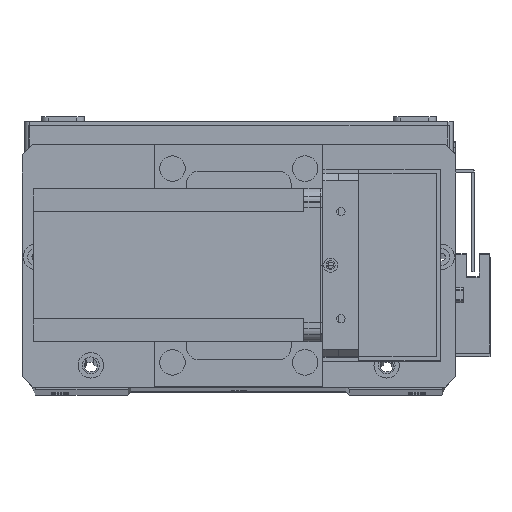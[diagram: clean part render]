
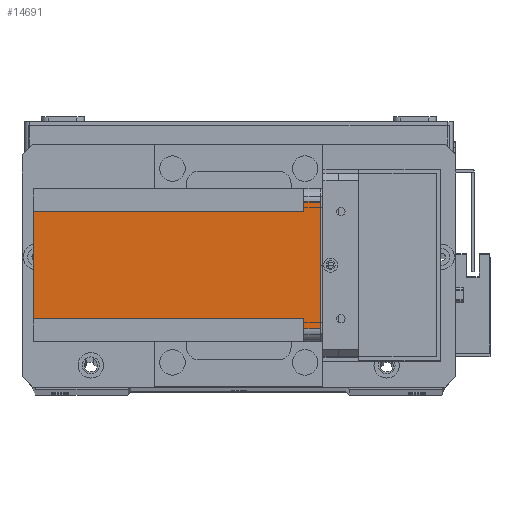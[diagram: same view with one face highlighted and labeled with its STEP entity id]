
A CAD part, top view. The second image highlights one B-rep face of the part: STEP entity #14691.
In plain terms, the highlighted planar face has unit normal (0, 0, 1) as drawn and (-1, 0, 0) by its records, which use the part's own axes.
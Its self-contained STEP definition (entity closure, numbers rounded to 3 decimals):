
#323 = LINE ( 'NONE', #25324, #6056 ) ;
#1512 = LINE ( 'NONE', #2048, #7254 ) ;
#1795 = DIRECTION ( 'NONE',  ( 0., 0., -1. ) ) ;
#2048 = CARTESIAN_POINT ( 'NONE',  ( 0., 0., 0. ) ) ;
#2240 = VECTOR ( 'NONE', #1795, 1000. ) ;
#3369 = DIRECTION ( 'NONE',  ( 0., 1., 0. ) ) ;
#3471 = CARTESIAN_POINT ( 'NONE',  ( 0., 5., -6.5 ) ) ;
#3875 = VERTEX_POINT ( 'NONE', #29984 ) ;
#6056 = VECTOR ( 'NONE', #10600, 1000. ) ;
#6598 = CARTESIAN_POINT ( 'NONE',  ( 0., 0., -112.5 ) ) ;
#6752 = VERTEX_POINT ( 'NONE', #17697 ) ;
#7254 = VECTOR ( 'NONE', #19146, 1000. ) ;
#7533 = CARTESIAN_POINT ( 'NONE',  ( 0., 51., -6.5 ) ) ;
#7601 = DIRECTION ( 'NONE',  ( 0., 1., 0. ) ) ;
#7842 = ORIENTED_EDGE ( 'NONE', *, *, #25323, .T. ) ;
#8041 = DIRECTION ( 'NONE',  ( 0., 0., 1. ) ) ;
#8262 = ORIENTED_EDGE ( 'NONE', *, *, #25064, .F. ) ;
#8616 = ORIENTED_EDGE ( 'NONE', *, *, #25376, .T. ) ;
#9186 = VECTOR ( 'NONE', #7601, 1000. ) ;
#9548 = LINE ( 'NONE', #6598, #16023 ) ;
#10039 = FACE_OUTER_BOUND ( 'NONE', #10304, .T. ) ;
#10304 = EDGE_LOOP ( 'NONE', ( #18611, #7842, #8262, #8616, #13116, #14747, #15364, #18239 ) ) ;
#10488 = VERTEX_POINT ( 'NONE', #7533 ) ;
#10600 = DIRECTION ( 'NONE',  ( 0., 0., -1. ) ) ;
#11260 = CARTESIAN_POINT ( 'NONE',  ( 0., 60., -6.5 ) ) ;
#11857 = LINE ( 'NONE', #13819, #28935 ) ;
#12528 = CARTESIAN_POINT ( 'NONE',  ( 0., 0., -6.5 ) ) ;
#13116 = ORIENTED_EDGE ( 'NONE', *, *, #25468, .F. ) ;
#13390 = LINE ( 'NONE', #27455, #25676 ) ;
#13819 = CARTESIAN_POINT ( 'NONE',  ( 0., 51., -112.5 ) ) ;
#14535 = VERTEX_POINT ( 'NONE', #26614 ) ;
#14691 = ADVANCED_FACE ( 'NONE', ( #10039 ), #17837, .T. ) ;
#14747 = ORIENTED_EDGE ( 'NONE', *, *, #25551, .F. ) ;
#15364 = ORIENTED_EDGE ( 'NONE', *, *, #25558, .T. ) ;
#16023 = VECTOR ( 'NONE', #23863, 1000. ) ;
#16426 = LINE ( 'NONE', #12528, #9186 ) ;
#16453 = CARTESIAN_POINT ( 'NONE',  ( 0., 9., -112.5 ) ) ;
#16492 = DIRECTION ( 'NONE',  ( -1., 0., 0. ) ) ;
#16820 = CARTESIAN_POINT ( 'NONE',  ( 0., 9., -112.5 ) ) ;
#16976 = DIRECTION ( 'NONE',  ( 0., -1., 0. ) ) ;
#17422 = CARTESIAN_POINT ( 'NONE',  ( 0., 0., -112.5 ) ) ;
#17508 = LINE ( 'NONE', #11260, #31136 ) ;
#17533 = CARTESIAN_POINT ( 'NONE',  ( 0., 5., 0. ) ) ;
#17679 = VERTEX_POINT ( 'NONE', #16820 ) ;
#17697 = CARTESIAN_POINT ( 'NONE',  ( 0., 9., -6.5 ) ) ;
#17837 = PLANE ( 'NONE',  #29739 ) ;
#18239 = ORIENTED_EDGE ( 'NONE', *, *, #25590, .F. ) ;
#18611 = ORIENTED_EDGE ( 'NONE', *, *, #25235, .F. ) ;
#19146 = DIRECTION ( 'NONE',  ( 0., -1., 0. ) ) ;
#23863 = DIRECTION ( 'NONE',  ( 0., -1., 0. ) ) ;
#24015 = CARTESIAN_POINT ( 'NONE',  ( 0., 55., 0. ) ) ;
#25064 = EDGE_CURVE ( 'NONE', #31507, #28874, #1512, .T. ) ;
#25235 = EDGE_CURVE ( 'NONE', #28324, #6752, #16426, .T. ) ;
#25323 = EDGE_CURVE ( 'NONE', #28324, #28874, #13390, .T. ) ;
#25324 = CARTESIAN_POINT ( 'NONE',  ( 0., 55., -112.5 ) ) ;
#25376 = EDGE_CURVE ( 'NONE', #31507, #14535, #323, .T. ) ;
#25468 = EDGE_CURVE ( 'NONE', #10488, #14535, #17508, .T. ) ;
#25551 = EDGE_CURVE ( 'NONE', #3875, #10488, #11857, .T. ) ;
#25558 = EDGE_CURVE ( 'NONE', #3875, #17679, #9548, .T. ) ;
#25590 = EDGE_CURVE ( 'NONE', #6752, #17679, #28228, .T. ) ;
#25676 = VECTOR ( 'NONE', #8041, 1000. ) ;
#26129 = DIRECTION ( 'NONE',  ( 0., 0., 1. ) ) ;
#26614 = CARTESIAN_POINT ( 'NONE',  ( 0., 55., -6.5 ) ) ;
#27455 = CARTESIAN_POINT ( 'NONE',  ( 0., 5., -112.5 ) ) ;
#28228 = LINE ( 'NONE', #16453, #2240 ) ;
#28324 = VERTEX_POINT ( 'NONE', #3471 ) ;
#28874 = VERTEX_POINT ( 'NONE', #17533 ) ;
#28935 = VECTOR ( 'NONE', #26129, 1000. ) ;
#29739 = AXIS2_PLACEMENT_3D ( 'NONE', #17422, #16492, #16976 ) ;
#29984 = CARTESIAN_POINT ( 'NONE',  ( 0., 51., -112.5 ) ) ;
#31136 = VECTOR ( 'NONE', #3369, 1000. ) ;
#31507 = VERTEX_POINT ( 'NONE', #24015 ) ;
